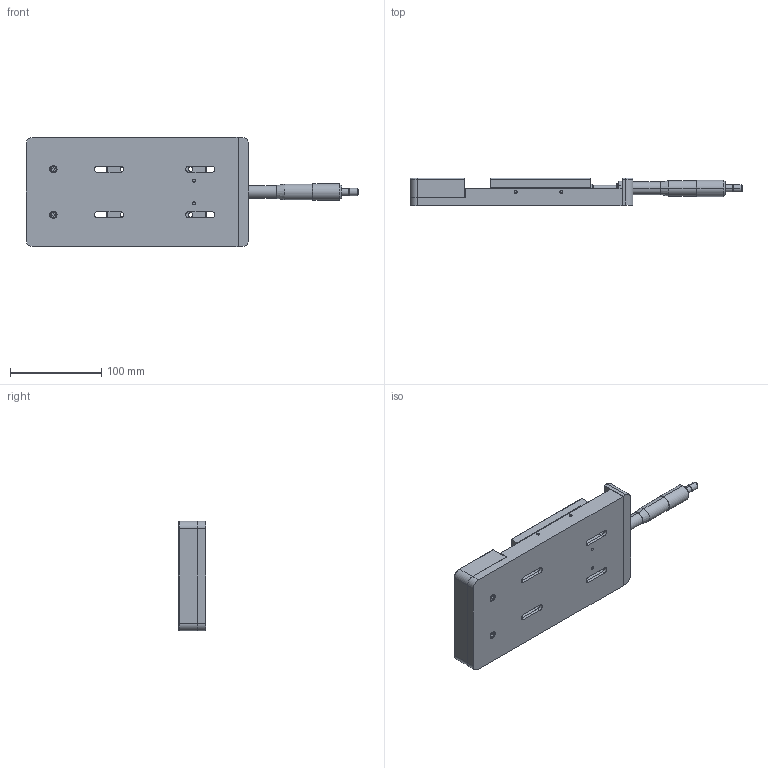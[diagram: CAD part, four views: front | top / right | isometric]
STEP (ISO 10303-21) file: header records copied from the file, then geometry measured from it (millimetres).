
FILE_DESCRIPTION (( 'STEP AP214' ), '1' );
FILE_NAME ('PT-SD105.STEP', '2023-02-11T01:52:19', ( '' ), ( '' ), 'SwSTEP 2.0', 'SolidWorks 2017', '' );
FILE_SCHEMA (( 'AUTOMOTIVE_DESIGN' ));
Length unit declared in the file: millimetre
Products named in the file (1): PT-SD105
Bounding box: 364.09 x 30 x 120 mm (x, y, z)
Surface area: 142282.1 mm2 (no closed solid volume)
Topology: 0 solids, 40 shells, 420 faces, 1235 edges, 841 vertices
Faces by surface type: cylinder 187, plane 177, cone 40, bspline 16
Entity records: 17384 total; most frequent: CARTESIAN_POINT 6144, DIRECTION 2372, ORIENTED_EDGE 2069, EDGE_CURVE 1225, AXIS2_PLACEMENT_3D 852, VERTEX_POINT 841, LINE 668, VECTOR 668
